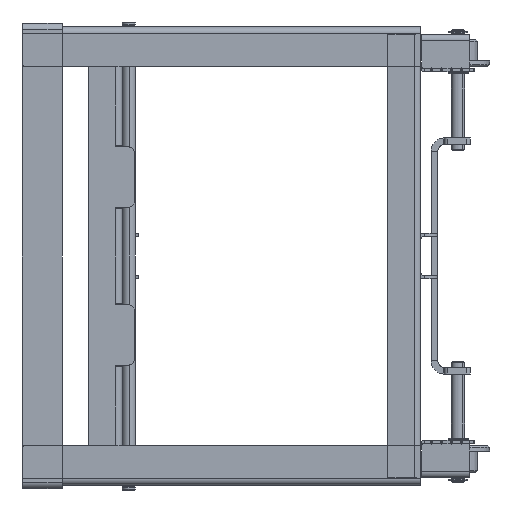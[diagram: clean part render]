
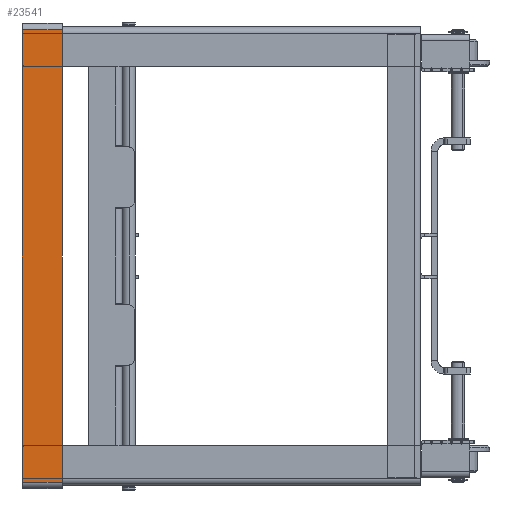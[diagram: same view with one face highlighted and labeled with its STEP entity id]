
A CAD part, left-side view. The second image highlights one B-rep face of the part: STEP entity #23541.
In plain terms, the highlighted planar face has unit normal (-1, 0, 0).
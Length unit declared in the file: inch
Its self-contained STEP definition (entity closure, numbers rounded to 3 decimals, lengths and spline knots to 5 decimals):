
#222 = CARTESIAN_POINT ( 'NONE',  ( -0.12, 0., 0. ) ) ;
#789 = VERTEX_POINT ( 'NONE', #26627 ) ;
#1137 = CARTESIAN_POINT ( 'NONE',  ( -0.12, 1.5, 8.635 ) ) ;
#1744 = VERTEX_POINT ( 'NONE', #20522 ) ;
#1756 = CARTESIAN_POINT ( 'NONE',  ( -0.12, 0., 8.51 ) ) ;
#1774 = DIRECTION ( 'NONE',  ( 0., 0., -1. ) ) ;
#2056 = EDGE_CURVE ( 'NONE', #1744, #10775, #27660, .T. ) ;
#3510 = VECTOR ( 'NONE', #16188, 39.37008 ) ;
#3611 = ORIENTED_EDGE ( 'NONE', *, *, #25563, .T. ) ;
#4971 = DIRECTION ( 'NONE',  ( 0., -1., 0. ) ) ;
#6176 = VECTOR ( 'NONE', #4971, 39.37008 ) ;
#7222 = ORIENTED_EDGE ( 'NONE', *, *, #2056, .F. ) ;
#8506 = FACE_OUTER_BOUND ( 'NONE', #13866, .T. ) ;
#8850 = EDGE_CURVE ( 'NONE', #12521, #10775, #24229, .T. ) ;
#9378 = EDGE_CURVE ( 'NONE', #12521, #789, #11968, .T. ) ;
#10775 = VERTEX_POINT ( 'NONE', #17566 ) ;
#11968 = LINE ( 'NONE', #1137, #3510 ) ;
#12196 = ORIENTED_EDGE ( 'NONE', *, *, #8850, .T. ) ;
#12278 = AXIS2_PLACEMENT_3D ( 'NONE', #222, #27475, #1774 ) ;
#12521 = VERTEX_POINT ( 'NONE', #17985 ) ;
#13866 = EDGE_LOOP ( 'NONE', ( #12196, #7222, #3611, #23773 ) ) ;
#15523 = VECTOR ( 'NONE', #18901, 39.37008 ) ;
#16188 = DIRECTION ( 'NONE',  ( 0., 0., 1. ) ) ;
#16998 = CARTESIAN_POINT ( 'NONE',  ( -0.12, 0., 8.635 ) ) ;
#17566 = CARTESIAN_POINT ( 'NONE',  ( -0.12, 0., -8.51 ) ) ;
#17985 = CARTESIAN_POINT ( 'NONE',  ( -0.12, 1.5, -8.51 ) ) ;
#18901 = DIRECTION ( 'NONE',  ( 0., 1., 0. ) ) ;
#19202 = PLANE ( 'NONE',  #12278 ) ;
#19733 = CARTESIAN_POINT ( 'NONE',  ( -0.12, 1.5, -8.51 ) ) ;
#20289 = VECTOR ( 'NONE', #21368, 39.37008 ) ;
#20522 = CARTESIAN_POINT ( 'NONE',  ( -0.12, 0., 8.51 ) ) ;
#21368 = DIRECTION ( 'NONE',  ( 0., 0., -1. ) ) ;
#23278 = LINE ( 'NONE', #1756, #15523 ) ;
#23541 = ADVANCED_FACE ( 'NONE', ( #8506 ), #19202, .F. ) ;
#23773 = ORIENTED_EDGE ( 'NONE', *, *, #9378, .F. ) ;
#24229 = LINE ( 'NONE', #19733, #6176 ) ;
#25563 = EDGE_CURVE ( 'NONE', #1744, #789, #23278, .T. ) ;
#26627 = CARTESIAN_POINT ( 'NONE',  ( -0.12, 1.5, 8.51 ) ) ;
#27475 = DIRECTION ( 'NONE',  ( 1., 0., 0. ) ) ;
#27660 = LINE ( 'NONE', #16998, #20289 ) ;
